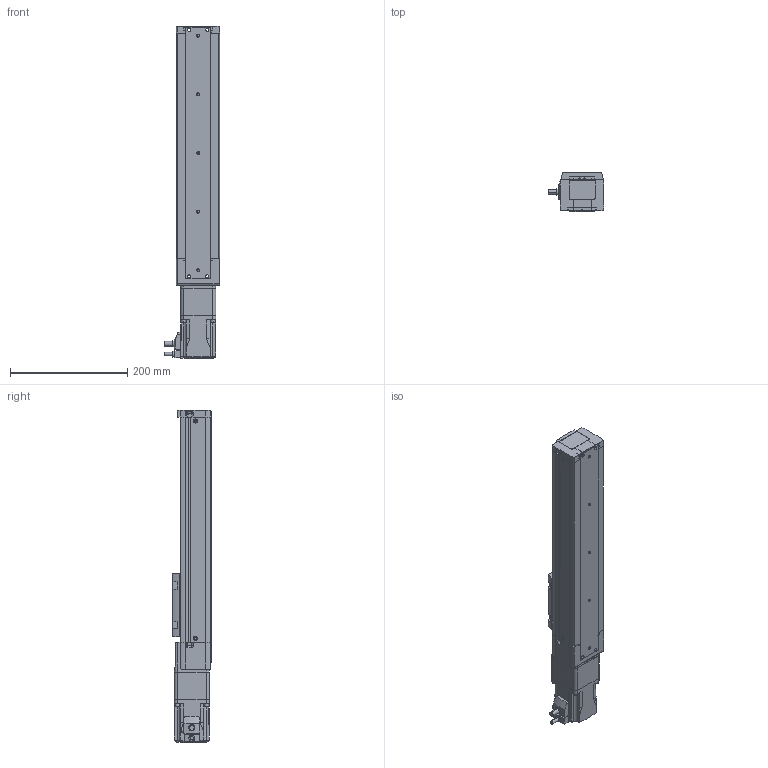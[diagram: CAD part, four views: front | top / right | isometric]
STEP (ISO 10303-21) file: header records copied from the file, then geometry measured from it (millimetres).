
FILE_DESCRIPTION (( 'STEP AP203' ), '1' );
FILE_NAME ('EZSM6D025AZAK.step', '2015-07-01T09:42:28', ( 'om' ), ( 'Hewlett-Packard Company' ), 'SwSTEP 2.0', 'SolidWorks 2014', '' );
FILE_SCHEMA (( 'CONFIG_CONTROL_DESIGN' ));
Length unit declared in the file: millimetre
Products named in the file (4): EZSM6D025AZAK_Motor; EZSM6D025AZAK_BASE; EZSM6D025AZAK_Table; EZSM6D025AZAK
Assembly tree (3 placements, depth 2):
  EZSM6D025AZAK
    EZSM6D025AZAK_Motor
    EZSM6D025AZAK_BASE
    EZSM6D025AZAK_Table
Bounding box: 95 x 66.5 x 566.1 mm (x, y, z)
Volume: 2223252 mm3; surface area: 202969.8 mm2
Topology: 3 solids, 6 shells, 889 faces, 2206 edges, 1429 vertices
Faces by surface type: plane 579, cylinder 250, cone 40, torus 15, sphere 4, bspline 1
Entity records: 27087 total; most frequent: CARTESIAN_POINT 5060, DIRECTION 4528, ORIENTED_EDGE 4412, EDGE_CURVE 2206, VECTOR 1594, LINE 1594, AXIS2_PLACEMENT_3D 1467, VERTEX_POINT 1429
